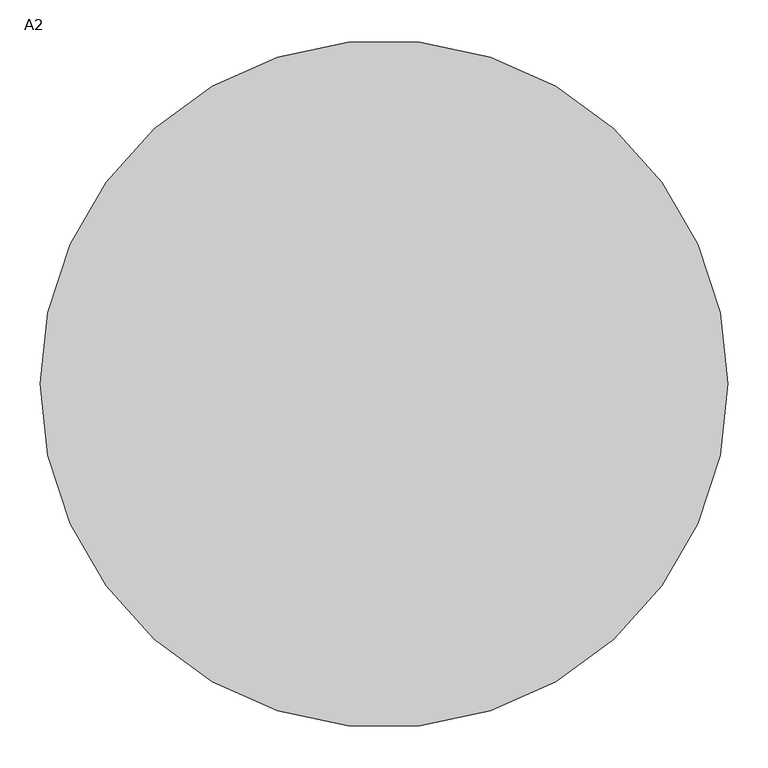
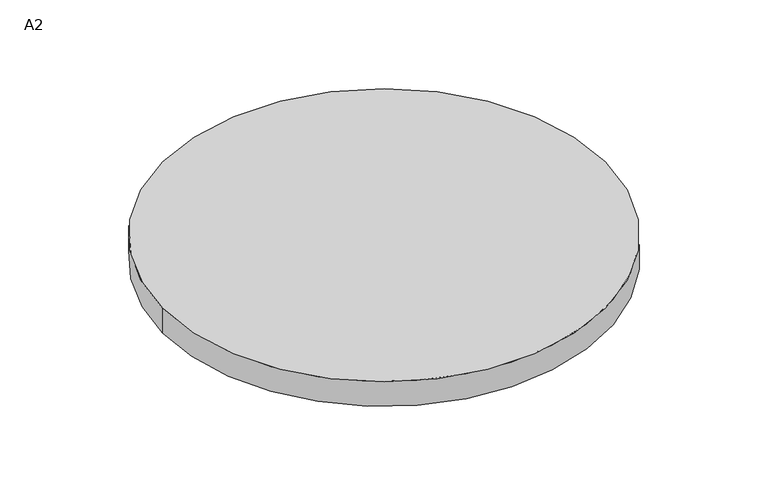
"""IFC4 building model written with IfcOpenShell, lengths in millimetres: light fixture geometry, AI_Luminaire_Circulaire plafonnier : A2."""

from ifc_helpers import new_model, si_unit, point, frame, origin, origin_2d, place, context, project, spatial, circle_curve, trimmed, segment, composite_curve, outline, extrude, source, transform, mapped, element, save


def a2_1787fb3f(model_context):
    return source(origin(), model_context, "Body", "SweptSolid", [
        extrude(outline(composite_curve([segment(trimmed(circle_curve(origin_2d(), 425.0), [point((-425.0, 0.0))], [point((425.0, 0.0))], False, "CARTESIAN"), True, "CONTINUOUS"), segment(trimmed(circle_curve(origin_2d(), 425.0), [point((425.0, 0.0))], [point((-425.0, 0.0))], False, "CARTESIAN"), True, "CONTINUOUS")], self_intersect=False)), frame((0.0, 0.0, -50.0), z_axis=(0.0, 0.0, 1.0), x_axis=(1.0, 0.0, 0.0)), (0.0, 0.0, 1.0), 50.0),
    ])


if __name__ == "__main__":
    model = new_model("IFC4")
    model_context = context("Model", 3, world=origin())
    ifc_project = project(units=[si_unit("LENGTHUNIT", "METRE", prefix="MILLI")], contexts=[model_context])
    site = spatial("IfcSite", under=ifc_project)
    building = spatial("IfcBuilding", under=site)
    placement = place(None, origin())
    a2_shape = a2_1787fb3f(model_context)
    element("IfcLightFixture", 1, ObjectType="AI_Luminaire_Circulaire plafonnier : A2", at=placement, inside=building, context=model_context, shape_type="MappedRepresentation", body=[
        mapped(a2_shape, transform((0.0, 0.0, 0.0), x_axis=(1.0, 0.0, 0.0), y_axis=(0.0, 1.0, 0.0), z_axis=(0.0, 0.0, 1.0))),
    ])
    save(model, "model.ifc")
